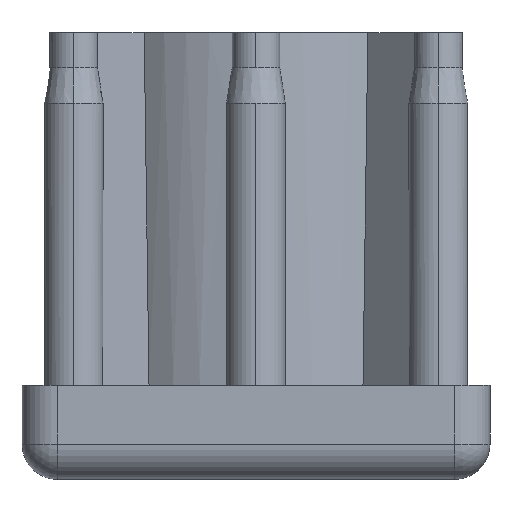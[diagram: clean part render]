
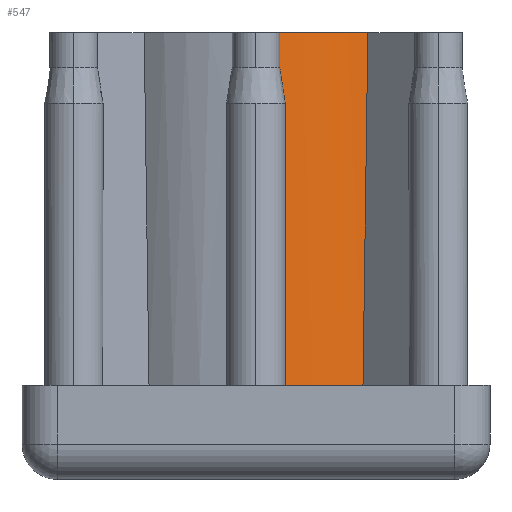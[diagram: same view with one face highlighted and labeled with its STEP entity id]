
A CAD part, left-side view. The second image highlights one B-rep face of the part: STEP entity #547.
In plain terms, the highlighted cylindrical face has radius 15 mm (diameter 30 mm), a partial arc.
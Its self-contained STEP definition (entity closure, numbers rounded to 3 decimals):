
#146 = DIRECTION ( 'NONE',  ( 0., 0., -1. ) ) ;
#172 = CARTESIAN_POINT ( 'NONE',  ( -801.753, -552.84, 24. ) ) ;
#183 = CARTESIAN_POINT ( 'NONE',  ( -798.657, -559.815, 19.98 ) ) ;
#219 = CARTESIAN_POINT ( 'NONE',  ( -798.873, -559.538, 0. ) ) ;
#275 = VERTEX_POINT ( 'NONE', #703 ) ;
#408 = ORIENTED_EDGE ( 'NONE', *, *, #652, .T. ) ;
#547 = ADVANCED_FACE ( 'NONE', ( #1400 ), #3393, .T. ) ;
#577 = VERTEX_POINT ( 'NONE', #1597 ) ;
#652 = EDGE_CURVE ( 'NONE', #275, #815, #1595, .T. ) ;
#701 = ORIENTED_EDGE ( 'NONE', *, *, #3170, .F. ) ;
#703 = CARTESIAN_POINT ( 'NONE',  ( -801.753, -552.84, 0. ) ) ;
#710 = CARTESIAN_POINT ( 'NONE',  ( -798.546, -559.951, 30. ) ) ;
#763 = DIRECTION ( 'NONE',  ( -1., 0., 0. ) ) ;
#776 = CIRCLE ( 'NONE', #1550, 15. ) ;
#815 = VERTEX_POINT ( 'NONE', #1278 ) ;
#822 = CARTESIAN_POINT ( 'NONE',  ( -801.823, -552.364, 27. ) ) ;
#921 = DIRECTION ( 'NONE',  ( 0., 0., 1. ) ) ;
#976 = DIRECTION ( 'NONE',  ( 0., 0., -1. ) ) ;
#1143 = CARTESIAN_POINT ( 'NONE',  ( -786.947, -550.44, 0. ) ) ;
#1168 = CARTESIAN_POINT ( 'NONE',  ( -801.753, -552.84, 15. ) ) ;
#1207 = LINE ( 'NONE', #1168, #1247 ) ;
#1247 = VECTOR ( 'NONE', #146, 1000. ) ;
#1278 = CARTESIAN_POINT ( 'NONE',  ( -798.873, -559.538, 0. ) ) ;
#1300 = VERTEX_POINT ( 'NONE', #3391 ) ;
#1347 = EDGE_CURVE ( 'NONE', #2447, #577, #2880, .T. ) ;
#1359 = AXIS2_PLACEMENT_3D ( 'NONE', #2641, #1820, #763 ) ;
#1400 = FACE_OUTER_BOUND ( 'NONE', #2560, .T. ) ;
#1550 = AXIS2_PLACEMENT_3D ( 'NONE', #1715, #921, #2513 ) ;
#1595 = CIRCLE ( 'NONE', #3229, 15. ) ;
#1597 = CARTESIAN_POINT ( 'NONE',  ( -801.823, -552.364, 27. ) ) ;
#1646 = DIRECTION ( 'NONE',  ( 0., 0., 1. ) ) ;
#1715 = CARTESIAN_POINT ( 'NONE',  ( -786.947, -550.44, 30. ) ) ;
#1745 = EDGE_CURVE ( 'NONE', #1300, #815, #2157, .T. ) ;
#1779 = CARTESIAN_POINT ( 'NONE',  ( -801.823, -552.364, 15. ) ) ;
#1820 = DIRECTION ( 'NONE',  ( 0., 0., -1. ) ) ;
#1931 = DIRECTION ( 'NONE',  ( 1., 0., 0. ) ) ;
#2157 =( BOUNDED_CURVE ( )  B_SPLINE_CURVE ( 3, ( #710, #183, #3378, #219 ),
 .UNSPECIFIED., .F., .T. ) 
 B_SPLINE_CURVE_WITH_KNOTS ( ( 4, 4 ),
 ( -1., 0. ),
 .UNSPECIFIED. ) 
 CURVE ( )  GEOMETRIC_REPRESENTATION_ITEM ( )  RATIONAL_B_SPLINE_CURVE ( ( 1., 1., 1., 1. ) ) 
 REPRESENTATION_ITEM ( '' )  );
#2176 = ORIENTED_EDGE ( 'NONE', *, *, #3410, .T. ) ;
#2291 = VECTOR ( 'NONE', #976, 1000. ) ;
#2371 = ORIENTED_EDGE ( 'NONE', *, *, #1745, .F. ) ;
#2447 = VERTEX_POINT ( 'NONE', #2882 ) ;
#2461 = B_SPLINE_CURVE_WITH_KNOTS ( 'NONE', 3,
 ( #822, #3221, #3212, #2684 ),
 .UNSPECIFIED., .F., .F.,
 ( 4, 4 ),
 ( 0., 1. ),
 .UNSPECIFIED. ) ;
#2513 = DIRECTION ( 'NONE',  ( 1., 0., 0. ) ) ;
#2560 = EDGE_LOOP ( 'NONE', ( #701, #2749, #2176, #2863, #408, #2371 ) ) ;
#2641 = CARTESIAN_POINT ( 'NONE',  ( -786.947, -550.44, 30. ) ) ;
#2684 = CARTESIAN_POINT ( 'NONE',  ( -801.753, -552.84, 24. ) ) ;
#2725 = EDGE_CURVE ( 'NONE', #2753, #275, #1207, .T. ) ;
#2749 = ORIENTED_EDGE ( 'NONE', *, *, #1347, .T. ) ;
#2753 = VERTEX_POINT ( 'NONE', #172 ) ;
#2863 = ORIENTED_EDGE ( 'NONE', *, *, #2725, .T. ) ;
#2880 = LINE ( 'NONE', #1779, #2291 ) ;
#2882 = CARTESIAN_POINT ( 'NONE',  ( -801.823, -552.364, 30. ) ) ;
#3170 = EDGE_CURVE ( 'NONE', #2447, #1300, #776, .T. ) ;
#3212 = CARTESIAN_POINT ( 'NONE',  ( -801.779, -552.683, 25. ) ) ;
#3221 = CARTESIAN_POINT ( 'NONE',  ( -801.802, -552.524, 26. ) ) ;
#3229 = AXIS2_PLACEMENT_3D ( 'NONE', #1143, #1646, #1931 ) ;
#3378 = CARTESIAN_POINT ( 'NONE',  ( -798.766, -559.677, 9.979 ) ) ;
#3391 = CARTESIAN_POINT ( 'NONE',  ( -798.546, -559.951, 30. ) ) ;
#3393 = CYLINDRICAL_SURFACE ( 'NONE', #1359, 15. ) ;
#3410 = EDGE_CURVE ( 'NONE', #577, #2753, #2461, .T. ) ;
